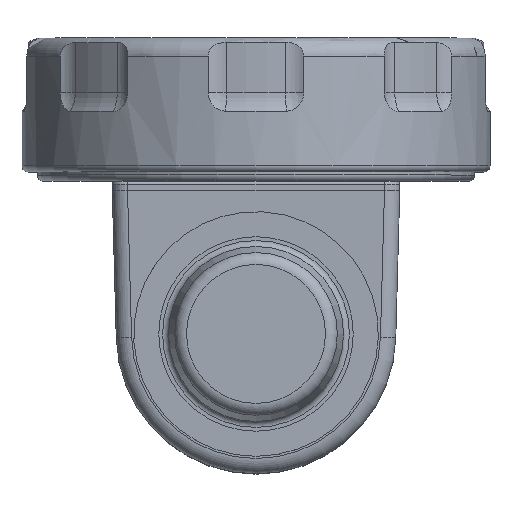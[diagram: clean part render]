
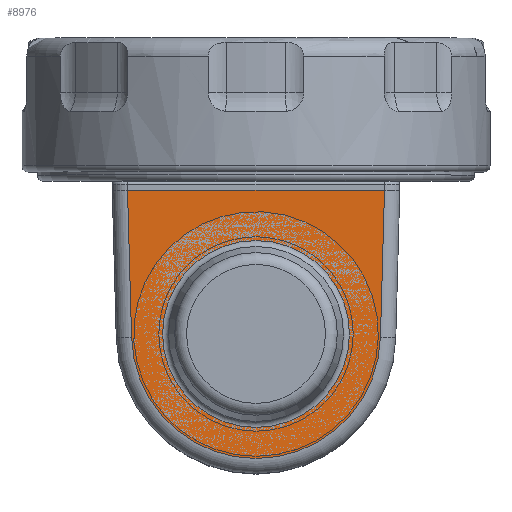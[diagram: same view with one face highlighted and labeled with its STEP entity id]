
A CAD part, top view. The second image highlights one B-rep face of the part: STEP entity #8976.
In plain terms, the highlighted planar face has unit normal (0, 0, 1).
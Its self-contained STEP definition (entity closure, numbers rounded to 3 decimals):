
#563=CIRCLE('',#9538,20.35);
#990=FACE_OUTER_BOUND('',#1517,.T.);
#1517=EDGE_LOOP('',(#5675,#5676,#5677,#5678));
#2167=LINE('',#13189,#2831);
#2171=LINE('',#13201,#2835);
#2172=LINE('',#13204,#2836);
#2831=VECTOR('',#10535,41.998);
#2835=VECTOR('',#10547,24.064);
#2836=VECTOR('',#10550,24.064);
#3542=VERTEX_POINT('',#13186);
#3543=VERTEX_POINT('',#13188);
#3547=VERTEX_POINT('',#13200);
#3548=VERTEX_POINT('',#13202);
#4402=EDGE_CURVE('',#3542,#3543,#2167,.T.);
#4408=EDGE_CURVE('',#3547,#3542,#2171,.T.);
#4409=EDGE_CURVE('',#3548,#3547,#563,.T.);
#4410=EDGE_CURVE('',#3543,#3548,#2172,.T.);
#5675=ORIENTED_EDGE('',*,*,#4408,.F.);
#5676=ORIENTED_EDGE('',*,*,#4409,.F.);
#5677=ORIENTED_EDGE('',*,*,#4410,.F.);
#5678=ORIENTED_EDGE('',*,*,#4402,.F.);
#8197=PLANE('',#9537);
#8976=ADVANCED_FACE('',(#990),#8197,.T.);
#9537=AXIS2_PLACEMENT_3D('',#13199,#10545,#10546);
#9538=AXIS2_PLACEMENT_3D('',#13203,#10548,#10549);
#10535=DIRECTION('',(1.,0.,0.));
#10545=DIRECTION('center_axis',(0.,0.,
1.));
#10546=DIRECTION('ref_axis',(1.,0.,0.));
#10547=DIRECTION('',(-0.027,1.,0.));
#10548=DIRECTION('center_axis',(0.,0.,
-1.));
#10549=DIRECTION('ref_axis',(0.,-1.,0.));
#10550=DIRECTION('',(-0.027,-1.,0.));
#13186=CARTESIAN_POINT('',(-20.999,23.5,23.5));
#13188=CARTESIAN_POINT('',(20.999,23.5,23.5));
#13189=CARTESIAN_POINT('',(23.5,23.5,23.5));
#13199=CARTESIAN_POINT('Origin',(0.,4.289,
23.5));
#13200=CARTESIAN_POINT('',(-20.342,-0.555,23.5));
#13201=CARTESIAN_POINT('',(-20.401,1.588,23.5));
#13202=CARTESIAN_POINT('',(20.342,-0.555,23.5));
#13203=CARTESIAN_POINT('Origin',(0.,0.,
23.5));
#13204=CARTESIAN_POINT('',(20.73,13.649,23.5));
